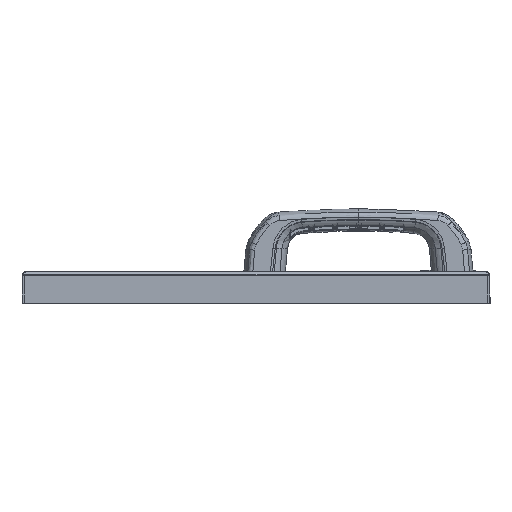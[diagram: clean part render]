
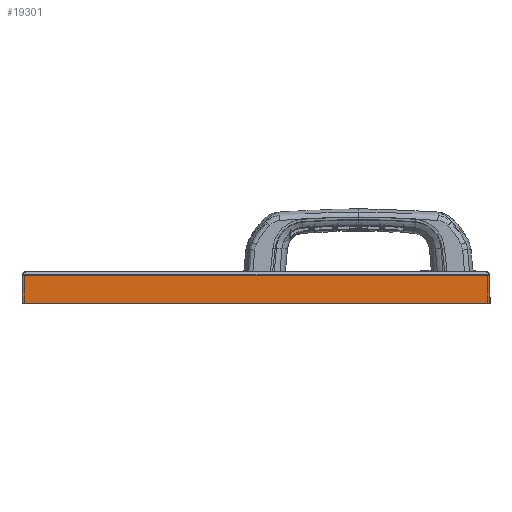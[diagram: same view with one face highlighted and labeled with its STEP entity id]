
A CAD part, left-side view. The second image highlights one B-rep face of the part: STEP entity #19301.
In plain terms, the highlighted planar face has unit normal (-1, 0, 0).
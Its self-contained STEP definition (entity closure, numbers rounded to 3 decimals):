
#14756=CARTESIAN_POINT(' ',(0.,297.,-2.3));
#14757=VERTEX_POINT(' ',#14756);
#14771=CARTESIAN_POINT(' ',(0.,297.,-2.3));
#14776=DIRECTION(' ',(0.,-1.,0.));
#14781=VECTOR(' ',#14776,1.);
#14786=LINE('',#14771,#14781);
#14791=CARTESIAN_POINT(' ',(0.,0.,-2.3));
#14792=VERTEX_POINT(' ',#14791);
#14796=EDGE_CURVE(' ',#14757,#14792,#14786,.T.);
#19161=DIRECTION(' ',(-1.,-0.,-0.));
#19166=CARTESIAN_POINT(' ',(0.,0.,-2.3));
#19171=DIRECTION(' ',(-0.,1.,0.));
#19176=AXIS2_PLACEMENT_3D(' ',#19166,#19161,#19171);
#19181=PLANE('NONE',#19176);
#19186=CARTESIAN_POINT(' ',(0.,0.,-20.));
#19191=DIRECTION(' ',(0.,0.,1.));
#19196=VECTOR(' ',#19191,1.);
#19201=LINE('',#19186,#19196);
#19206=CARTESIAN_POINT(' ',(0.,0.,-20.));
#19207=VERTEX_POINT(' ',#19206);
#19211=EDGE_CURVE(' ',#19207,#14792,#19201,.T.);
#19216=ORIENTED_EDGE(' ',*,*,#19211,.T.);
#19221=ORIENTED_EDGE(' ',*,*,#14796,.F.);
#19226=CARTESIAN_POINT(' ',(0.,297.,-20.));
#19231=DIRECTION(' ',(0.,0.,1.));
#19236=VECTOR(' ',#19231,1.);
#19241=LINE('',#19226,#19236);
#19246=CARTESIAN_POINT(' ',(0.,297.,-20.));
#19247=VERTEX_POINT(' ',#19246);
#19251=EDGE_CURVE(' ',#19247,#14757,#19241,.T.);
#19256=ORIENTED_EDGE(' ',*,*,#19251,.F.);
#19261=CARTESIAN_POINT(' ',(0.,297.,-20.));
#19266=DIRECTION(' ',(0.,-1.,0.));
#19271=VECTOR(' ',#19266,1.);
#19276=LINE('',#19261,#19271);
#19281=EDGE_CURVE(' ',#19247,#19207,#19276,.T.);
#19286=ORIENTED_EDGE(' ',*,*,#19281,.T.);
#19291=EDGE_LOOP(' ',(#19216,#19221,#19256,#19286));
#19296=FACE_OUTER_BOUND(' ',#19291,.T.);
#19301=ADVANCED_FACE('NONE',(#19296),#19181,.T.);
